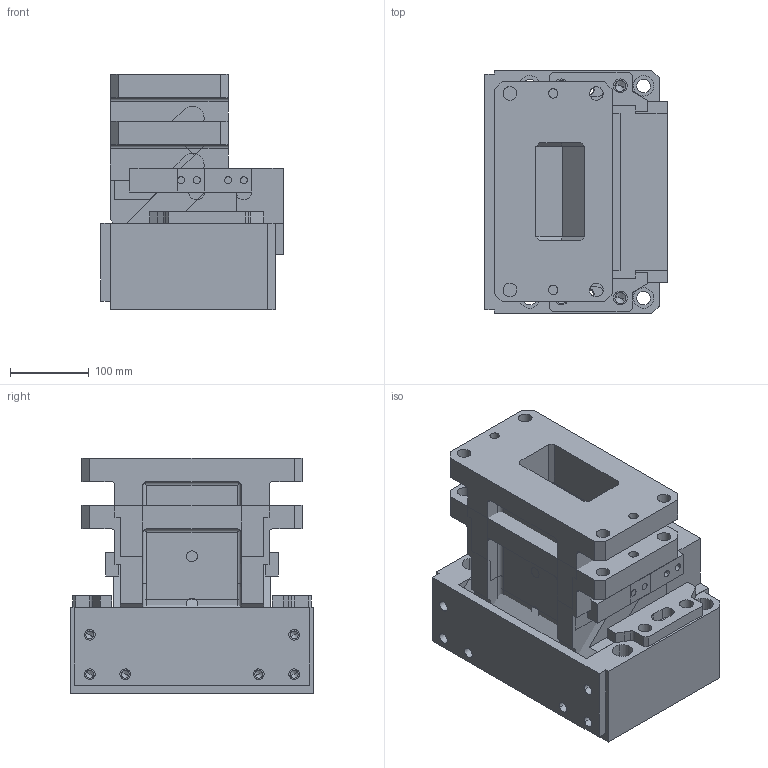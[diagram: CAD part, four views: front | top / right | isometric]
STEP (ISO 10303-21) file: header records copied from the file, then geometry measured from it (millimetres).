
FILE_DESCRIPTION(('CATIA V5 STEP','CAx-IF Rec.Pracs.--- Model Styling and Organization---1.4--- 2014-01-23','CAx-IF Rec.Pracs.---3D Tessellated Data Validation Properties---0.5---2014-09-14'),'2;1');
FILE_NAME('H:\_COMPRESS_2\2016.11.00.200.060.1.2__CM.stp','2020-11-18T12:54:19+00:00',('${USER}'),('AUDI AG, ${GROUP}'),'CATIA Version 5-6 Release 2018 SP3 HF27','CATIA V5 STEP AP242','none');
FILE_SCHEMA(('AP242_MANAGED_MODEL_BASED_3D_ENGINEERING_MIM_LF {1 0 10303 442 1 1 4}'));
Length unit declared in the file: millimetre
Products named in the file (1): 2016.11.00.200.060.1.2__CM
Bounding box: 232 x 310 x 300 mm (x, y, z)
Volume: 15900852.2 mm3; surface area: 1209825 mm2
Topology: 5 solids, 5 shells, 652 faces, 1672 edges, 1063 vertices
Faces by surface type: plane 393, cylinder 217, cone 36, sphere 4, bspline 2
Entity records: 18533 total; most frequent: CARTESIAN_POINT 3570, ORIENTED_EDGE 3282, DIRECTION 2556, EDGE_CURVE 1641, VECTOR 1157, LINE 1157, VERTEX_POINT 1059, AXIS2_PLACEMENT_3D 913
